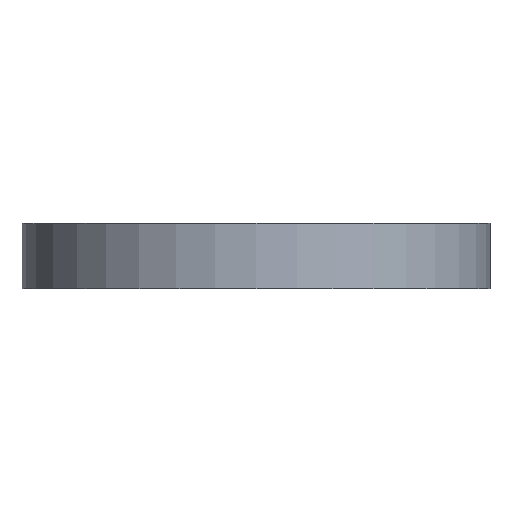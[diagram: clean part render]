
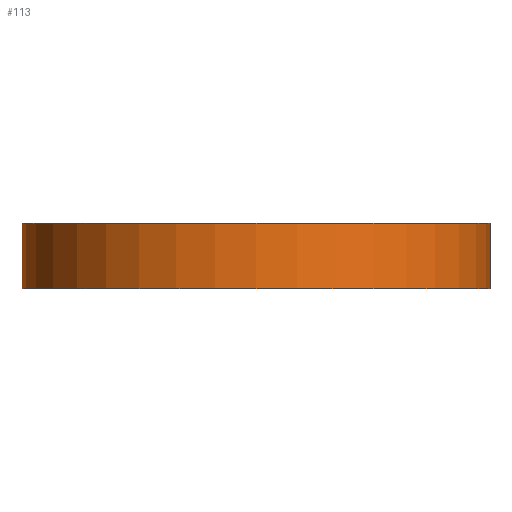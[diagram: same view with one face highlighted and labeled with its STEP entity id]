
A CAD part, front view. The second image highlights one B-rep face of the part: STEP entity #113.
In plain terms, the highlighted cylindrical face has radius 21.6 mm (diameter 43.2 mm), a full revolution.
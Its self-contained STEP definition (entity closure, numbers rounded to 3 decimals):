
#66 = PLANE('',#67);
#67 = AXIS2_PLACEMENT_3D('',#68,#69,#70);
#68 = CARTESIAN_POINT('',(0.,27.5,3.5));
#69 = DIRECTION('',(0.,0.,1.));
#70 = DIRECTION('',(1.,0.,-0.));
#98 = PLANE('',#99);
#99 = AXIS2_PLACEMENT_3D('',#100,#101,#102);
#100 = CARTESIAN_POINT('',(0.,27.5,9.5));
#101 = DIRECTION('',(0.,0.,1.));
#102 = DIRECTION('',(1.,0.,-0.));
#113 = ADVANCED_FACE('',(#114),#127,.T.);
#114 = FACE_BOUND('',#115,.T.);
#115 = EDGE_LOOP('',(#116,#145,#168,#190));
#116 = ORIENTED_EDGE('',*,*,#117,.F.);
#117 = EDGE_CURVE('',#118,#118,#120,.T.);
#118 = VERTEX_POINT('',#119);
#119 = CARTESIAN_POINT('',(-21.6,27.5,9.5));
#120 = SURFACE_CURVE('',#121,(#126,#138),.PCURVE_S1.);
#121 = CIRCLE('',#122,21.6);
#122 = AXIS2_PLACEMENT_3D('',#123,#124,#125);
#123 = CARTESIAN_POINT('',(0.,27.5,9.5));
#124 = DIRECTION('',(0.,0.,1.));
#125 = DIRECTION('',(1.,0.,-0.));
#126 = PCURVE('',#127,#132);
#127 = CYLINDRICAL_SURFACE('',#128,21.6);
#128 = AXIS2_PLACEMENT_3D('',#129,#130,#131);
#129 = CARTESIAN_POINT('',(0.,27.5,3.5));
#130 = DIRECTION('',(0.,0.,1.));
#131 = DIRECTION('',(1.,0.,-0.));
#132 = DEFINITIONAL_REPRESENTATION('',(#133),#137);
#133 = LINE('',#134,#135);
#134 = CARTESIAN_POINT('',(-6.283,6.));
#135 = VECTOR('',#136,1.);
#136 = DIRECTION('',(1.,0.));
#137 = ( GEOMETRIC_REPRESENTATION_CONTEXT(2) 
PARAMETRIC_REPRESENTATION_CONTEXT() REPRESENTATION_CONTEXT('2D SPACE',''
  ) );
#138 = PCURVE('',#98,#139);
#139 = DEFINITIONAL_REPRESENTATION('',(#140),#144);
#140 = CIRCLE('',#141,21.6);
#141 = AXIS2_PLACEMENT_2D('',#142,#143);
#142 = CARTESIAN_POINT('',(0.,0.));
#143 = DIRECTION('',(1.,0.));
#144 = ( GEOMETRIC_REPRESENTATION_CONTEXT(2) 
PARAMETRIC_REPRESENTATION_CONTEXT() REPRESENTATION_CONTEXT('2D SPACE',''
  ) );
#145 = ORIENTED_EDGE('',*,*,#146,.T.);
#146 = EDGE_CURVE('',#118,#147,#149,.T.);
#147 = VERTEX_POINT('',#148);
#148 = CARTESIAN_POINT('',(-21.6,27.5,3.5));
#149 = SEAM_CURVE('',#150,(#154,#161),.PCURVE_S1.);
#150 = LINE('',#151,#152);
#151 = CARTESIAN_POINT('',(-21.6,27.5,3.5));
#152 = VECTOR('',#153,1.);
#153 = DIRECTION('',(0.,0.,-1.));
#154 = PCURVE('',#127,#155);
#155 = DEFINITIONAL_REPRESENTATION('',(#156),#160);
#156 = LINE('',#157,#158);
#157 = CARTESIAN_POINT('',(-3.142,0.));
#158 = VECTOR('',#159,1.);
#159 = DIRECTION('',(0.,-1.));
#160 = ( GEOMETRIC_REPRESENTATION_CONTEXT(2) 
PARAMETRIC_REPRESENTATION_CONTEXT() REPRESENTATION_CONTEXT('2D SPACE',''
  ) );
#161 = PCURVE('',#127,#162);
#162 = DEFINITIONAL_REPRESENTATION('',(#163),#167);
#163 = LINE('',#164,#165);
#164 = CARTESIAN_POINT('',(3.142,0.));
#165 = VECTOR('',#166,1.);
#166 = DIRECTION('',(0.,-1.));
#167 = ( GEOMETRIC_REPRESENTATION_CONTEXT(2) 
PARAMETRIC_REPRESENTATION_CONTEXT() REPRESENTATION_CONTEXT('2D SPACE',''
  ) );
#168 = ORIENTED_EDGE('',*,*,#169,.T.);
#169 = EDGE_CURVE('',#147,#147,#170,.T.);
#170 = SURFACE_CURVE('',#171,(#176,#183),.PCURVE_S1.);
#171 = CIRCLE('',#172,21.6);
#172 = AXIS2_PLACEMENT_3D('',#173,#174,#175);
#173 = CARTESIAN_POINT('',(0.,27.5,3.5));
#174 = DIRECTION('',(0.,0.,1.));
#175 = DIRECTION('',(1.,0.,-0.));
#176 = PCURVE('',#127,#177);
#177 = DEFINITIONAL_REPRESENTATION('',(#178),#182);
#178 = LINE('',#179,#180);
#179 = CARTESIAN_POINT('',(-6.283,0.));
#180 = VECTOR('',#181,1.);
#181 = DIRECTION('',(1.,0.));
#182 = ( GEOMETRIC_REPRESENTATION_CONTEXT(2) 
PARAMETRIC_REPRESENTATION_CONTEXT() REPRESENTATION_CONTEXT('2D SPACE',''
  ) );
#183 = PCURVE('',#66,#184);
#184 = DEFINITIONAL_REPRESENTATION('',(#185),#189);
#185 = CIRCLE('',#186,21.6);
#186 = AXIS2_PLACEMENT_2D('',#187,#188);
#187 = CARTESIAN_POINT('',(0.,0.));
#188 = DIRECTION('',(1.,0.));
#189 = ( GEOMETRIC_REPRESENTATION_CONTEXT(2) 
PARAMETRIC_REPRESENTATION_CONTEXT() REPRESENTATION_CONTEXT('2D SPACE',''
  ) );
#190 = ORIENTED_EDGE('',*,*,#146,.F.);
